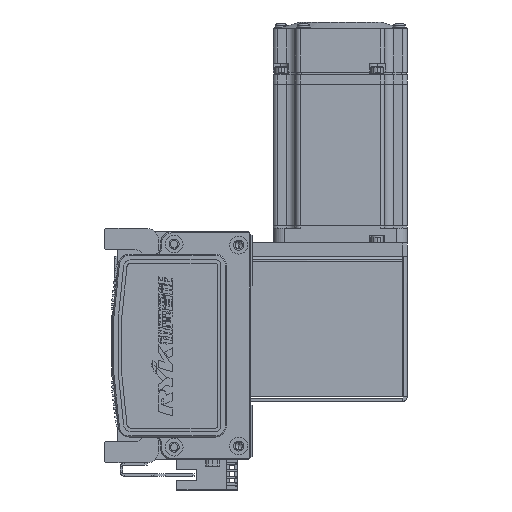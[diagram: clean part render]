
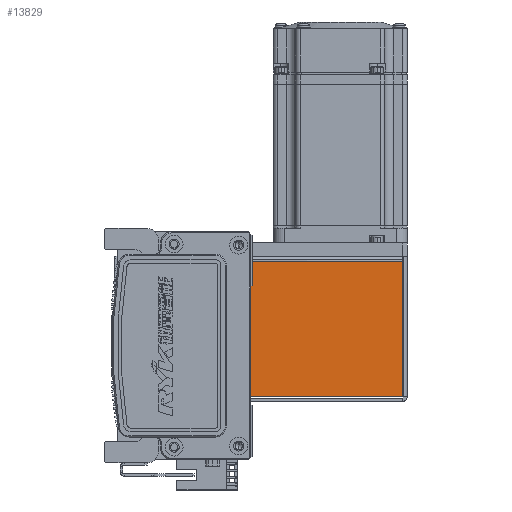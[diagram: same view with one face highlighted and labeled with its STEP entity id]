
A CAD part, left-side view. The second image highlights one B-rep face of the part: STEP entity #13829.
In plain terms, the highlighted planar face has unit normal (-1, 0, 0) as drawn and (0, 0, 1) by its records, which use the part's own axes.
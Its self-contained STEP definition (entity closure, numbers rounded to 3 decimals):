
#3504 = CARTESIAN_POINT ( 'NONE',  ( 0., 72.5, 35. ) ) ;
#4118 = EDGE_CURVE ( 'NONE', #39152, #32478, #46163, .T. ) ;
#5869 = EDGE_CURVE ( 'NONE', #68165, #39152, #34070, .T. ) ;
#6063 = VECTOR ( 'NONE', #63560, 1000. ) ;
#8891 = LINE ( 'NONE', #37843, #31954 ) ;
#10413 = VERTEX_POINT ( 'NONE', #40103 ) ;
#13829 = ADVANCED_FACE ( 'NONE', ( #22742 ), #36443, .F. ) ;
#14840 = AXIS2_PLACEMENT_3D ( 'NONE', #62752, #35760, #62515 ) ;
#16242 = CARTESIAN_POINT ( 'NONE',  ( 30.263, 0.737, 35. ) ) ;
#16261 = ORIENTED_EDGE ( 'NONE', *, *, #4118, .T. ) ;
#19381 = ORIENTED_EDGE ( 'NONE', *, *, #37609, .F. ) ;
#22742 = FACE_OUTER_BOUND ( 'NONE', #58096, .T. ) ;
#24006 = DIRECTION ( 'NONE',  ( -1., 0., 0. ) ) ;
#31224 = EDGE_CURVE ( 'NONE', #68165, #10413, #8891, .T. ) ;
#31928 = VECTOR ( 'NONE', #47076, 1000. ) ;
#31954 = VECTOR ( 'NONE', #53735, 1000. ) ;
#32478 = VERTEX_POINT ( 'NONE', #55425 ) ;
#32937 = VECTOR ( 'NONE', #24006, 1000. ) ;
#34070 = LINE ( 'NONE', #37261, #6063 ) ;
#35760 = DIRECTION ( 'NONE',  ( 0., 0., -1. ) ) ;
#36443 = PLANE ( 'NONE',  #14840 ) ;
#37261 = CARTESIAN_POINT ( 'NONE',  ( 30.263, 0.737, 35. ) ) ;
#37609 = EDGE_CURVE ( 'NONE', #10413, #32478, #47580, .T. ) ;
#37843 = CARTESIAN_POINT ( 'NONE',  ( -32.5, 0.737, 35. ) ) ;
#39152 = VERTEX_POINT ( 'NONE', #40879 ) ;
#40103 = CARTESIAN_POINT ( 'NONE',  ( -30.293, 0.737, 35. ) ) ;
#40879 = CARTESIAN_POINT ( 'NONE',  ( 30.263, 72.5, 35. ) ) ;
#41577 = CARTESIAN_POINT ( 'NONE',  ( -30.293, 0., 35. ) ) ;
#41786 = ORIENTED_EDGE ( 'NONE', *, *, #31224, .F. ) ;
#45754 = ORIENTED_EDGE ( 'NONE', *, *, #5869, .T. ) ;
#46163 = LINE ( 'NONE', #3504, #32937 ) ;
#47076 = DIRECTION ( 'NONE',  ( 0., 1., 0. ) ) ;
#47580 = LINE ( 'NONE', #41577, #31928 ) ;
#53735 = DIRECTION ( 'NONE',  ( -1., 0., 0. ) ) ;
#55425 = CARTESIAN_POINT ( 'NONE',  ( -30.293, 72.5, 35. ) ) ;
#58096 = EDGE_LOOP ( 'NONE', ( #45754, #16261, #19381, #41786 ) ) ;
#62515 = DIRECTION ( 'NONE',  ( -1., 0., 0. ) ) ;
#62752 = CARTESIAN_POINT ( 'NONE',  ( 0., 0., 35. ) ) ;
#63560 = DIRECTION ( 'NONE',  ( 0., 1., 0. ) ) ;
#68165 = VERTEX_POINT ( 'NONE', #16242 ) ;
